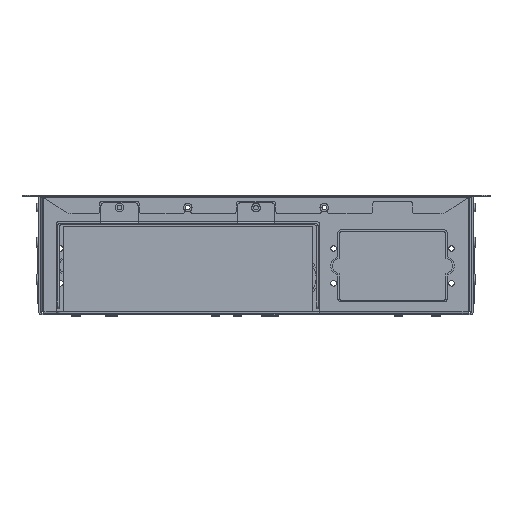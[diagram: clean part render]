
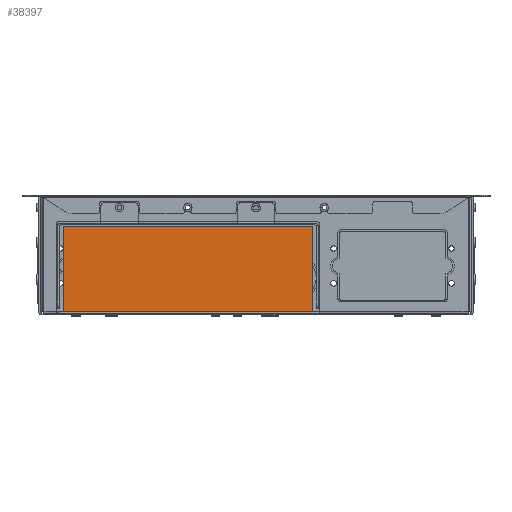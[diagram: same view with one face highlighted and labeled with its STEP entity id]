
A CAD part, front view. The second image highlights one B-rep face of the part: STEP entity #38397.
In plain terms, the highlighted planar face has unit normal (0, -1, 0).
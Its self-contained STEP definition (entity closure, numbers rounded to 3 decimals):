
#358 = DIRECTION ( 'NONE',  ( 1., 0., 0. ) ) ;
#363 = DIRECTION ( 'NONE',  ( -1., 0., 0. ) ) ;
#664 = CARTESIAN_POINT ( 'NONE',  ( -100.33, 0., -34.29 ) ) ;
#5530 = VERTEX_POINT ( 'NONE', #49013 ) ;
#6974 = EDGE_CURVE ( 'NONE', #40195, #5530, #36718, .T. ) ;
#9166 = DIRECTION ( 'NONE',  ( 0., 0., 1. ) ) ;
#11396 = CARTESIAN_POINT ( 'NONE',  ( 100.33, 0., -34.29 ) ) ;
#13890 = VERTEX_POINT ( 'NONE', #32545 ) ;
#15589 = VERTEX_POINT ( 'NONE', #45343 ) ;
#16571 = ORIENTED_EDGE ( 'NONE', *, *, #6974, .F. ) ;
#18720 = ORIENTED_EDGE ( 'NONE', *, *, #30570, .F. ) ;
#21438 = CARTESIAN_POINT ( 'NONE',  ( 100.33, 0., -34.29 ) ) ;
#22952 = CARTESIAN_POINT ( 'NONE',  ( -100.33, 0., 34.29 ) ) ;
#23816 = EDGE_CURVE ( 'NONE', #15589, #13890, #53713, .T. ) ;
#26884 = EDGE_CURVE ( 'NONE', #13890, #40195, #52110, .T. ) ;
#30345 = DIRECTION ( 'NONE',  ( 0., 0., 1. ) ) ;
#30570 = EDGE_CURVE ( 'NONE', #5530, #15589, #36122, .T. ) ;
#32545 = CARTESIAN_POINT ( 'NONE',  ( 100.33, 0., 34.29 ) ) ;
#32626 = ORIENTED_EDGE ( 'NONE', *, *, #26884, .F. ) ;
#33145 = VECTOR ( 'NONE', #47148, 1000. ) ;
#33324 = VECTOR ( 'NONE', #363, 1000. ) ;
#36122 = LINE ( 'NONE', #40229, #45494 ) ;
#36718 = LINE ( 'NONE', #664, #33324 ) ;
#37568 = EDGE_LOOP ( 'NONE', ( #32626, #54519, #18720, #16571 ) ) ;
#38397 = ADVANCED_FACE ( 'NONE', ( #44703 ), #43540, .F. ) ;
#40008 = CARTESIAN_POINT ( 'NONE',  ( 0., 0., 0. ) ) ;
#40195 = VERTEX_POINT ( 'NONE', #21438 ) ;
#40229 = CARTESIAN_POINT ( 'NONE',  ( -100.33, 0., -34.29 ) ) ;
#43540 = PLANE ( 'NONE',  #56589 ) ;
#43830 = DIRECTION ( 'NONE',  ( 0., 1., 0. ) ) ;
#44703 = FACE_OUTER_BOUND ( 'NONE', #37568, .T. ) ;
#45343 = CARTESIAN_POINT ( 'NONE',  ( -100.33, 0., 34.29 ) ) ;
#45494 = VECTOR ( 'NONE', #9166, 1000. ) ;
#47148 = DIRECTION ( 'NONE',  ( 0., 0., -1. ) ) ;
#49013 = CARTESIAN_POINT ( 'NONE',  ( -100.33, 0., -34.29 ) ) ;
#52110 = LINE ( 'NONE', #11396, #33145 ) ;
#53713 = LINE ( 'NONE', #22952, #55152 ) ;
#54519 = ORIENTED_EDGE ( 'NONE', *, *, #23816, .F. ) ;
#55152 = VECTOR ( 'NONE', #358, 1000. ) ;
#56589 = AXIS2_PLACEMENT_3D ( 'NONE', #40008, #43830, #30345 ) ;
